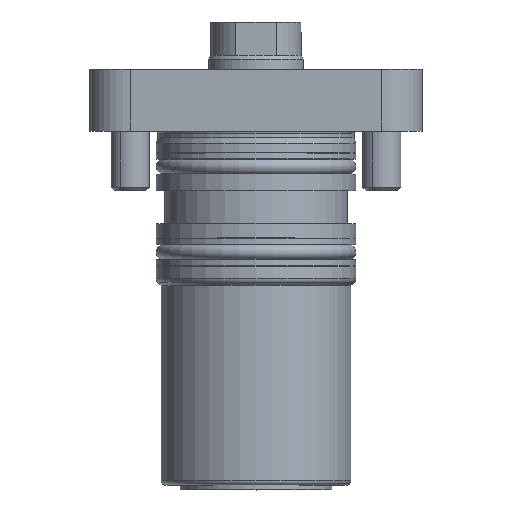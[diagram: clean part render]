
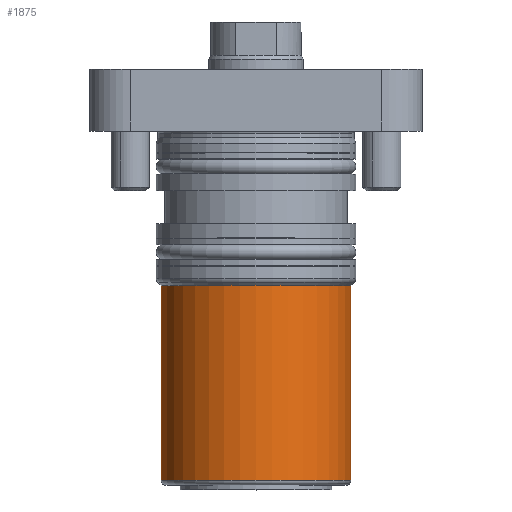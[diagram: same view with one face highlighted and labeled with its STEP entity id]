
A CAD part, top view. The second image highlights one B-rep face of the part: STEP entity #1875.
In plain terms, the highlighted cylindrical face has radius 20 mm (diameter 40 mm), a partial arc.
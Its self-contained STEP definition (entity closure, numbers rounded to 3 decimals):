
#470 = CARTESIAN_POINT ( 'NONE',  ( -20., 43., 0. ) ) ;
#1007 = EDGE_CURVE ( 'NONE', #11506, #3061, #2348, .T. ) ;
#1074 = EDGE_LOOP ( 'NONE', ( #9892, #7668, #8142, #5305 ) ) ;
#1121 = CARTESIAN_POINT ( 'NONE',  ( -20., 40.193, 0. ) ) ;
#1625 = DIRECTION ( 'NONE',  ( 0., 1., 0. ) ) ;
#1875 = ADVANCED_FACE ( 'NONE', ( #11525 ), #7001, .T. ) ;
#2036 = DIRECTION ( 'NONE',  ( 0., 1., 0. ) ) ;
#2348 = LINE ( 'NONE', #1121, #3754 ) ;
#2687 = DIRECTION ( 'NONE',  ( -1., 0., 0. ) ) ;
#2708 = AXIS2_PLACEMENT_3D ( 'NONE', #12706, #7817, #10703 ) ;
#2738 = DIRECTION ( 'NONE',  ( -1., 0., 0. ) ) ;
#3061 = VERTEX_POINT ( 'NONE', #470 ) ;
#3399 = CARTESIAN_POINT ( 'NONE',  ( 20., 2., 0. ) ) ;
#3754 = VECTOR ( 'NONE', #2036, 1000. ) ;
#3889 = EDGE_CURVE ( 'NONE', #11506, #6272, #9291, .T. ) ;
#3937 = AXIS2_PLACEMENT_3D ( 'NONE', #11502, #1625, #2687 ) ;
#4759 = LINE ( 'NONE', #10727, #10994 ) ;
#5305 = ORIENTED_EDGE ( 'NONE', *, *, #1007, .F. ) ;
#6272 = VERTEX_POINT ( 'NONE', #3399 ) ;
#6930 = CARTESIAN_POINT ( 'NONE',  ( 20., 43., 0. ) ) ;
#7001 = CYLINDRICAL_SURFACE ( 'NONE', #3937, 20. ) ;
#7668 = ORIENTED_EDGE ( 'NONE', *, *, #10821, .T. ) ;
#7684 = CARTESIAN_POINT ( 'NONE',  ( 0., 43., 0. ) ) ;
#7817 = DIRECTION ( 'NONE',  ( 0., 1., 0. ) ) ;
#8142 = ORIENTED_EDGE ( 'NONE', *, *, #10368, .F. ) ;
#8803 = AXIS2_PLACEMENT_3D ( 'NONE', #7684, #9588, #2738 ) ;
#9291 = CIRCLE ( 'NONE', #2708, 20. ) ;
#9588 = DIRECTION ( 'NONE',  ( 0., 1., 0. ) ) ;
#9892 = ORIENTED_EDGE ( 'NONE', *, *, #3889, .T. ) ;
#10149 = VERTEX_POINT ( 'NONE', #6930 ) ;
#10368 = EDGE_CURVE ( 'NONE', #3061, #10149, #11308, .T. ) ;
#10703 = DIRECTION ( 'NONE',  ( -1., 0., 0. ) ) ;
#10727 = CARTESIAN_POINT ( 'NONE',  ( 20., 40.193, 0. ) ) ;
#10821 = EDGE_CURVE ( 'NONE', #6272, #10149, #4759, .T. ) ;
#10836 = CARTESIAN_POINT ( 'NONE',  ( -20., 2., 0. ) ) ;
#10994 = VECTOR ( 'NONE', #11590, 1000. ) ;
#11308 = CIRCLE ( 'NONE', #8803, 20. ) ;
#11502 = CARTESIAN_POINT ( 'NONE',  ( 0., 40.193, 0. ) ) ;
#11506 = VERTEX_POINT ( 'NONE', #10836 ) ;
#11525 = FACE_OUTER_BOUND ( 'NONE', #1074, .T. ) ;
#11590 = DIRECTION ( 'NONE',  ( 0., 1., 0. ) ) ;
#12706 = CARTESIAN_POINT ( 'NONE',  ( 0., 2., 0. ) ) ;
